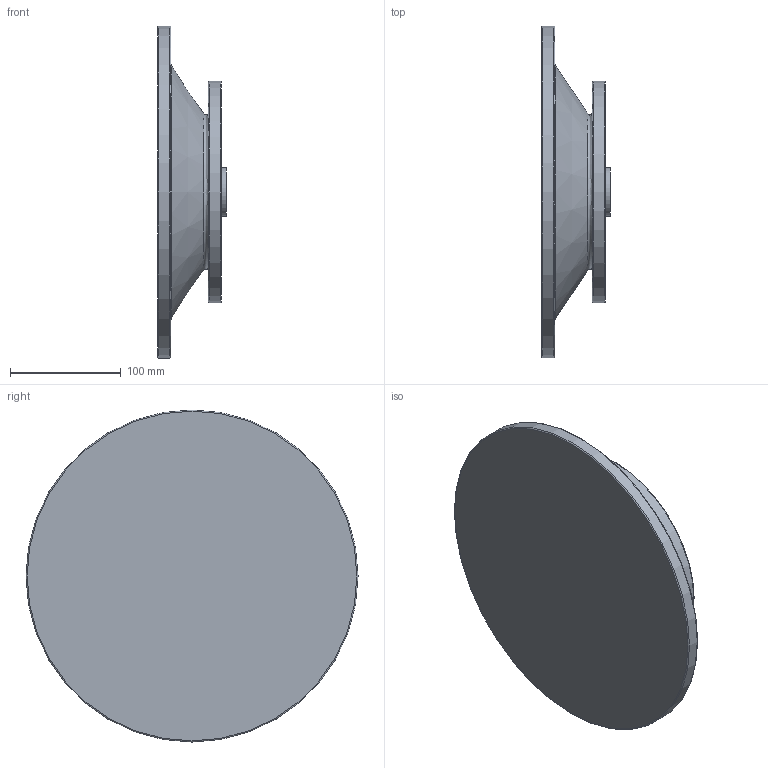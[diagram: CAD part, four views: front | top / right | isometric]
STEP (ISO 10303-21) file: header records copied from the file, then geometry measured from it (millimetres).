
FILE_DESCRIPTION((''),'2;1');
FILE_NAME('D:\PAWEŁ\ZLECENIA\2011 DualSystem\Przekładnie DR\DR90\STEP\90_B5_L57,5.stp','2012-06-11T12:24:11',('admin'),(''),'Autodesk Inventor 2009','Autodesk Inventor 2009','');
FILE_SCHEMA(('AUTOMOTIVE_DESIGN { 1 0 10303 214 1 1 1 1 }'));
Length unit declared in the file: millimetre
Products named in the file (1): 90_B5_L57,5
Bounding box: 62 x 300 x 300 mm (x, y, z)
Volume: 1347686.8 mm3; surface area: 268357.8 mm2
Topology: 1 solids, 1 shells, 30 faces, 58 edges, 36 vertices
Faces by surface type: plane 11, cylinder 6, bspline 6, torus 5, cone 2
Full cylindrical faces by diameter (mm): 44 x1, 108.441 x1, 130 x1, 200 x1, 300 x1
Entity records: 895 total; most frequent: CARTESIAN_POINT 281, DIRECTION 120, ORIENTED_EDGE 80, EDGE_LOOP 62, AXIS2_PLACEMENT_3D 55, EDGE_CURVE 40, VERTEX_POINT 36, FACE_BOUND 32
